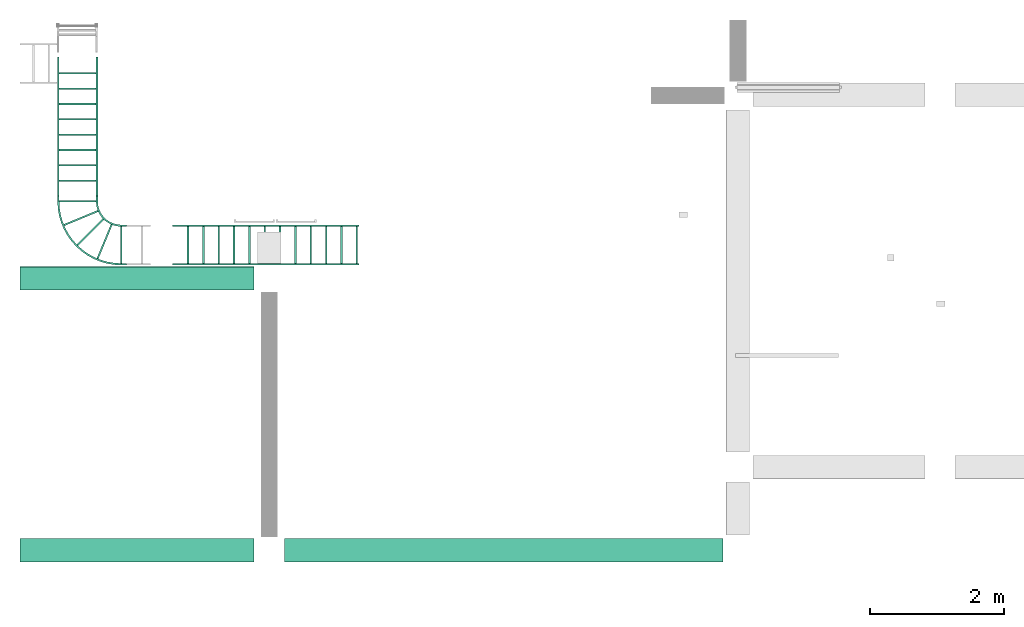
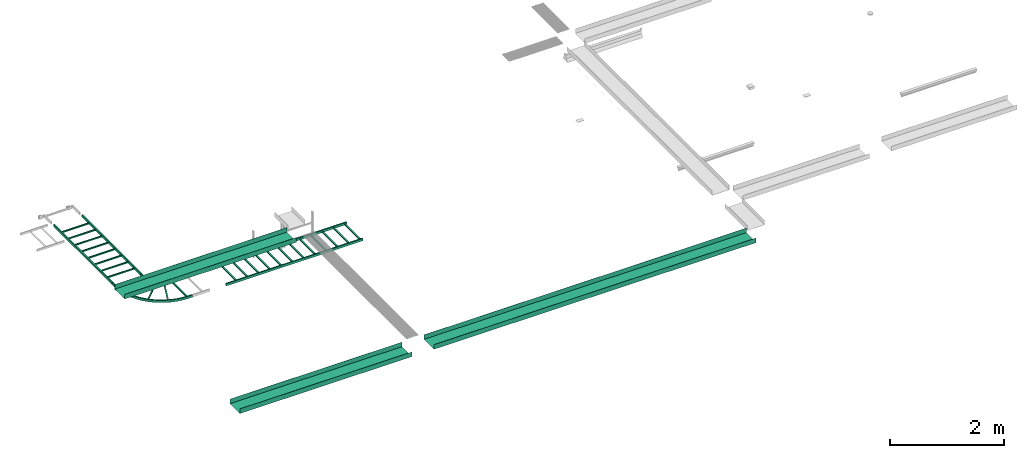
# One storey, part 8 of 14: 5 flow segments, 1 flow fitting.
"""IFC2X3 building model written with IfcOpenShell, lengths in millimetres."""

from ifc_helpers import new_model, entity, si_unit, converted_unit, derived_unit, direction, frame, origin_with_axes, place, context, subcontext, project, spatial, open_shell, faceted_brep, surface_model, source, transform, mapped, type_object, element, save


model = new_model("IFC2X3")

# Units and contexts
model_context = context("Model", 3, precision=0.01, world=frame((0.0, 4.29681676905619e-09, 0.0)), true_north=direction((4.01073788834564e-13, 1.0)))
plan_context = context("Plan", 3, precision=0.01, world=frame((0.0, 4.29681676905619e-09, 0.0)), true_north=direction((4.01073788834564e-13, 1.0)))
body_context = subcontext(model_context, "Body", "Model", "MODEL_VIEW")
ifc_project = project(units=[converted_unit("PLANEANGLEUNIT", "DEGREE", entity("IfcPositiveLengthMeasure", 0.0174532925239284), si_unit("PLANEANGLEUNIT", "RADIAN"), dimensions=[0, 0, 0, 0, 0, 0, 0]), si_unit("AREAUNIT", "SQUARE_METRE"), si_unit("LENGTHUNIT", "METRE", prefix="MILLI"), si_unit("MASSUNIT", "GRAM", prefix="KILO"), si_unit("POWERUNIT", "WATT"), si_unit("PRESSUREUNIT", "PASCAL", prefix="KILO"), si_unit("FORCEUNIT", "NEWTON", prefix="KILO"), si_unit("ELECTRICVOLTAGEUNIT", "VOLT"), si_unit("ELECTRICCURRENTUNIT", "AMPERE"), si_unit("THERMODYNAMICTEMPERATUREUNIT", "DEGREE_CELSIUS"), si_unit("TIMEUNIT", "SECOND"), si_unit("VOLUMEUNIT", "CUBIC_METRE"), derived_unit("LINEARVELOCITYUNIT", [(si_unit("LENGTHUNIT", "METRE"), 1), (si_unit("TIMEUNIT", "SECOND"), -1)]), derived_unit("VOLUMETRICFLOWRATEUNIT", [(si_unit("VOLUMEUNIT", "CUBIC_METRE"), 1), (si_unit("TIMEUNIT", "SECOND"), -1)]), derived_unit("THERMALTRANSMITTANCEUNIT", [(si_unit("POWERUNIT", "WATT"), 1), (si_unit("THERMODYNAMICTEMPERATUREUNIT", "KELVIN"), -1), (si_unit("AREAUNIT", "SQUARE_METRE"), -1)]), derived_unit("SOUNDPRESSUREUNIT", [(si_unit("PRESSUREUNIT", "PASCAL"), 1)])], contexts=[model_context, plan_context])

# Site, building, storey
site_placement = place(None, frame((0.0, -4.29681676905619e-09, 0.0), z_axis=(0.0, 0.0, 1.0), x_axis=(1.0, 0.0, 0.0)))
site = spatial("IfcSite", under=ifc_project, at=site_placement, Name="ENGM", CompositionType="ELEMENT")
building_placement = place(site_placement, frame((0.0, 4.29681676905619e-09, 0.0), z_axis=(0.0, 0.0, 1.0), x_axis=(1.0, 0.0, 0.0)))
building = spatial("IfcBuilding", under=site, at=building_placement, Name="TG", CompositionType="ELEMENT")
storey_placement = place(building_placement, frame((0.0, 0.0, 205200.0), z_axis=(0.0, 0.0, 1.0), x_axis=(1.0, 0.0, 0.0)))
storey = spatial("IfcBuildingStorey", under=building, at=storey_placement, Name="Nivå D + 1,2", CompositionType="ELEMENT", Elevation=205200.0)

# Flow fitting
cable_carrier_fitting_type = type_object("IfcCableCarrierFittingType", Name="Standard", PredefinedType="BEND")
shared_shape_1 = source(origin_with_axes(), body_context, "Body", "SurfaceModel", [
    surface_model("IfcShellBasedSurfaceModel", [(-298.31555, 518.0739, -25.0), (-308.0357, 494.60738, -25.0), (-308.0357, 494.60738, 0.4), (-298.31555, 518.0739, 0.4), (199.35894, 284.43763, 0.4), (199.35894, 284.43763, -25.0), (209.0791, 307.90417, -25.0), (209.0791, 307.90417, 0.4), (-494.60738, 308.0357, -25.0), (-518.0739, 298.31555, -25.0), (-518.0739, 298.31555, 0.4), (-494.60738, 308.0357, 0.4), (-307.90417, -209.0791, 0.4), (-307.90417, -209.0791, -25.0), (-284.43763, -199.35894, -25.0), (-284.43763, -199.35894, 0.4), (-274.60001, 662.70003, -25.0), (-274.60001, 637.29998, -25.0), (-274.60001, 637.29998, 0.4), (-274.60001, 662.70003, 0.4), (274.60001, 637.29998, 0.4), (274.60001, 637.29998, -25.0), (274.60001, 662.70003, -25.0), (274.60001, 662.70003, 0.4), (-637.29998, 274.60001, -25.0), (-662.70003, 274.60001, -25.0), (-662.70003, 274.60001, 0.4), (-637.29998, 274.60001, 0.4), (-662.70003, -274.60001, 0.4), (-662.70003, -274.60001, -25.0), (-637.29998, -274.60001, -25.0), (-637.29998, -274.60001, 0.4), (-375.57184, 393.53237, -25.0), (-393.53237, 375.57184, -25.0), (-393.53237, 375.57184, 0.4), (-375.57184, 393.53237, 0.4), (-5.18933, -12.77119, 0.4), (-5.18933, -12.77119, -25.0), (12.77119, 5.18933, -25.0), (12.77119, 5.18933, 0.4), (-729.99999, -274.60001, 25.0), (-729.99999, -274.60001, -25.0), (-729.99999, -300.0, -25.0), (-729.99999, -300.0, 25.0), (-729.99999, 274.60001, 25.0), (-729.99999, 300.0, -25.0), (-729.99999, 274.60001, -25.0), (-729.99999, 300.0, 25.0), (-650.0, -274.60001, 25.0), (-650.0, -274.60001, -25.0), (-237.81045, -205.92043, -25.0), (-248.83109, -183.03581, -25.0), (-144.56953, -154.388, -25.0), (-344.62399, -222.71453, -25.0), (-336.23489, -246.68916, -25.0), (-158.08314, -132.8812, -25.0), (-57.68469, -92.73991, -25.0), (-73.52133, -72.88139, -25.0), (21.75144, -21.75144, -25.0), (3.79093, -3.79093, -25.0), (-650.0, -300.0, -25.0), (-543.63375, -294.0266, -25.0), (-444.25715, -251.41836, -25.0), (-438.6051, -276.18153, -25.0), (-546.47765, -268.7863, -25.0), (274.60001, 650.0, -25.0), (274.60001, 729.99999, -25.0), (300.0, 650.0, -25.0), (251.41836, 444.25715, -25.0), (268.7863, 546.47765, -25.0), (276.18153, 438.6051, -25.0), (294.0266, 543.63375, -25.0), (300.0, 729.99999, -25.0), (246.68916, 336.23489, -25.0), (72.88139, 73.52133, -25.0), (132.8812, 158.08314, -25.0), (92.73991, 57.68469, -25.0), (154.388, 144.56953, -25.0), (222.71453, 344.62399, -25.0), (205.92043, 237.81045, -25.0), (183.03581, 248.83109, -25.0), (-650.0, -300.0, 25.0), (-543.63375, -294.0266, 25.0), (-438.6051, -276.18153, 25.0), (-546.47765, -268.7863, 25.0), (-444.25715, -251.41836, 25.0), (-336.23489, -246.68916, 25.0), (-344.62399, -222.71453, 25.0), (-237.81045, -205.92043, 25.0), (-248.83109, -183.03581, 25.0), (-144.56953, -154.388, 25.0), (-158.08314, -132.8812, 25.0), (-57.68469, -92.73991, 25.0), (3.79093, -3.79093, 25.0), (-73.52133, -72.88139, 25.0), (21.75144, -21.75144, 25.0), (92.73991, 57.68469, 25.0), (72.88139, 73.52133, 25.0), (132.8812, 158.08314, 25.0), (154.388, 144.56953, 25.0), (205.92043, 237.81045, 25.0), (183.03581, 248.83109, 25.0), (222.71453, 344.62399, 25.0), (246.68916, 336.23489, 25.0), (251.41836, 444.25715, 25.0), (274.60001, 650.0, 25.0), (268.7863, 546.47765, 25.0), (294.0266, 543.63375, 25.0), (276.18153, 438.6051, 25.0), (300.0, 650.0, 25.0), (274.60001, 729.99999, 25.0), (300.0, 729.99999, 25.0), (-650.0, 300.0, 25.0), (-650.0, 300.0, -25.0), (-530.29296, 321.10758, -25.0), (-475.0, 346.89111, -25.0), (-462.30002, 324.89405, -25.0), (-521.60563, 297.2394, -25.0), (-589.22316, 305.3173, -25.0), (-408.69755, 362.42693, -25.0), (-425.02435, 381.88443, -25.0), (-362.42693, 408.69755, -25.0), (-650.0, 274.60001, -25.0), (-584.81249, 280.30317, -25.0), (-300.0, 650.0, -25.0), (-300.0, 729.99999, -25.0), (-274.60001, 650.0, -25.0), (-305.3173, 589.22316, -25.0), (-280.30317, 584.81249, -25.0), (-274.60001, 729.99999, -25.0), (-297.2394, 521.60563, -25.0), (-381.88443, 425.02435, -25.0), (-346.89111, 475.0, -25.0), (-324.89405, 462.30002, -25.0), (-321.10758, 530.29296, -25.0), (-650.0, 274.60001, 25.0), (-589.22316, 305.3173, 25.0), (-584.81249, 280.30317, 25.0), (-521.60563, 297.2394, 25.0), (-530.29296, 321.10758, 25.0), (-475.0, 346.89111, 25.0), (-462.30002, 324.89405, 25.0), (-408.69755, 362.42693, 25.0), (-425.02435, 381.88443, 25.0), (-381.88443, 425.02435, 25.0), (-362.42693, 408.69755, 25.0), (-346.89111, 475.0, 25.0), (-324.89405, 462.30002, 25.0), (-297.2394, 521.60563, 25.0), (-321.10758, 530.29296, 25.0), (-305.3173, 589.22316, 25.0), (-300.0, 650.0, 25.0), (-280.30317, 584.81249, 25.0), (-300.0, 729.99999, 25.0), (-274.60001, 650.0, 25.0), (-274.60001, 729.99999, 25.0), (-598.23881, -271.69315, 25.0), (-203.45711, -157.95851, -25.0), (-394.44057, -237.06643, 25.0), (-495.3674, -260.10233, -25.0), (-115.80223, -102.88129, 25.0), (-115.80223, -102.88129, -25.0), (-598.23881, -271.69315, -25.0), (-495.3674, -260.10233, 25.0), (-34.8652, -38.33616, 25.0), (-34.8652, -38.33616, -25.0), (-296.72755, -202.87517, 25.0), (-394.44057, -237.06643, -25.0), (-296.72755, -202.87517, -25.0), (-203.45711, -157.95851, 25.0), (102.88129, 115.80223, 25.0), (102.88129, 115.80223, -25.0), (157.95851, 203.45711, -25.0), (157.95851, 203.45711, 25.0), (260.10233, 495.3674, 25.0), (270.88121, 583.78097, 25.0), (237.06643, 394.44057, 25.0), (237.06643, 394.44057, -25.0), (202.87517, 296.72755, 25.0), (202.87517, 296.72755, -25.0), (260.10233, 495.3674, -25.0), (271.69315, 598.23881, -25.0), (38.33616, 34.8652, -25.0), (38.33616, 34.8652, 25.0), (-619.6116, 302.65865, 25.0), (-313.21242, 559.75806, -25.0), (-502.64646, 333.99934, -25.0), (-559.75806, 313.21242, 25.0), (-619.6116, 302.65865, -25.0), (-559.75806, 313.21242, -25.0), (-403.45441, 403.45441, -25.0), (-450.01218, 364.38779, -25.0), (-313.21242, 559.75806, 25.0), (-502.64646, 333.99934, 25.0), (-450.01218, 364.38779, 25.0), (-403.45441, 403.45441, 25.0), (-364.38779, 450.01218, 25.0), (-364.38779, 450.01218, -25.0), (-333.99934, 502.64646, -25.0), (-333.99934, 502.64646, 25.0), (-302.65865, 619.6116, -25.0), (-303.55382, 609.37959, 25.0)], [open_shell([[[0, 1, 2]], [[2, 3, 0]], [[4, 5, 6]], [[6, 7, 4]], [[3, 7, 6]], [[6, 0, 3]], [[0, 6, 5]], [[5, 1, 0]], [[1, 5, 4]], [[4, 2, 1]], [[2, 4, 7]], [[7, 3, 2]], [[8, 9, 10]], [[10, 11, 8]], [[12, 13, 14]], [[14, 15, 12]], [[11, 15, 14]], [[14, 8, 11]], [[8, 14, 13]], [[13, 9, 8]], [[9, 13, 12]], [[12, 10, 9]], [[10, 12, 15]], [[15, 11, 10]], [[16, 17, 18]], [[18, 19, 16]], [[20, 21, 22]], [[22, 23, 20]], [[19, 23, 22]], [[22, 16, 19]], [[16, 22, 21]], [[21, 17, 16]], [[17, 21, 20]], [[20, 18, 17]], [[18, 20, 23]], [[23, 19, 18]], [[24, 25, 26]], [[26, 27, 24]], [[28, 29, 30]], [[30, 31, 28]], [[27, 31, 30]], [[30, 24, 27]], [[24, 30, 29]], [[29, 25, 24]], [[25, 29, 28]], [[28, 26, 25]], [[26, 28, 31]], [[31, 27, 26]], [[32, 33, 34]], [[34, 35, 32]], [[36, 37, 38]], [[38, 39, 36]], [[35, 39, 38]], [[38, 32, 35]], [[32, 38, 37]], [[37, 33, 32]], [[33, 37, 36]], [[36, 34, 33]], [[34, 36, 39]], [[39, 35, 34]], [[40, 41, 42]], [[42, 43, 40]], [[44, 45, 46]], [[45, 44, 47]], [[40, 48, 49]], [[49, 41, 40]], [[50, 51, 52]], [[53, 50, 54]], [[50, 53, 51]], [[51, 55, 52]], [[56, 57, 58]], [[52, 55, 56]], [[57, 59, 58]], [[56, 55, 57]], [[41, 49, 60]], [[60, 42, 41]], [[49, 61, 60]], [[62, 54, 63]], [[54, 62, 53]], [[64, 63, 61]], [[63, 64, 62]], [[64, 61, 49]], [[65, 66, 67]], [[68, 69, 70]], [[65, 71, 69]], [[71, 65, 67]], [[70, 69, 71]], [[67, 66, 72]], [[68, 70, 73]], [[74, 75, 76]], [[76, 58, 74]], [[75, 77, 76]], [[58, 59, 74]], [[78, 73, 79]], [[73, 78, 68]], [[77, 80, 79]], [[80, 77, 75]], [[79, 80, 78]], [[42, 60, 81]], [[81, 43, 42]], [[43, 81, 40]], [[48, 40, 81]], [[81, 82, 48]], [[82, 83, 84]], [[85, 84, 83]], [[83, 86, 85]], [[82, 84, 48]], [[87, 86, 88]], [[86, 87, 85]], [[89, 88, 90]], [[88, 89, 87]], [[91, 90, 92]], [[90, 91, 89]], [[93, 94, 95]], [[92, 94, 91]], [[95, 94, 92]], [[95, 96, 97]], [[98, 97, 96]], [[96, 99, 98]], [[99, 100, 101]], [[102, 100, 103]], [[100, 102, 101]], [[99, 101, 98]], [[102, 103, 104]], [[105, 106, 107]], [[104, 108, 106]], [[109, 105, 107]], [[110, 109, 111]], [[110, 105, 109]], [[107, 106, 108]], [[103, 108, 104]], [[97, 93, 95]], [[47, 112, 113]], [[113, 45, 47]], [[114, 115, 116]], [[117, 118, 114]], [[115, 119, 116]], [[119, 115, 120]], [[119, 120, 121]], [[117, 114, 116]], [[46, 45, 122]], [[122, 45, 113]], [[118, 123, 113]], [[123, 118, 117]], [[113, 123, 122]], [[124, 125, 126]], [[127, 124, 128]], [[124, 126, 128]], [[126, 125, 129]], [[127, 128, 130]], [[131, 132, 121]], [[121, 132, 133]], [[131, 121, 120]], [[133, 134, 130]], [[134, 133, 132]], [[130, 134, 127]], [[46, 122, 135]], [[135, 44, 46]], [[44, 135, 47]], [[47, 135, 112]], [[136, 112, 137]], [[137, 112, 135]], [[136, 137, 138]], [[136, 138, 139]], [[140, 139, 141]], [[142, 143, 140]], [[143, 142, 144]], [[142, 140, 141]], [[138, 141, 139]], [[144, 145, 146]], [[145, 144, 142]], [[146, 145, 147]], [[147, 148, 149]], [[149, 148, 150]], [[147, 149, 146]], [[151, 150, 152]], [[153, 151, 154]], [[154, 155, 153]], [[154, 151, 152]], [[150, 148, 152]], [[48, 156, 49]], [[157, 91, 55]], [[158, 62, 85]], [[62, 159, 85]], [[160, 94, 57]], [[91, 161, 55]], [[49, 156, 162]], [[163, 64, 84]], [[164, 93, 59]], [[94, 165, 57]], [[51, 166, 89]], [[53, 167, 87]], [[160, 161, 91]], [[167, 158, 87]], [[168, 166, 51]], [[159, 163, 85]], [[167, 62, 158]], [[84, 64, 162]], [[89, 169, 51]], [[168, 53, 87]], [[159, 64, 163]], [[157, 51, 169]], [[160, 57, 161]], [[156, 84, 162]], [[168, 87, 166]], [[164, 165, 94]], [[164, 59, 165]], [[170, 98, 75]], [[97, 171, 74]], [[98, 172, 75]], [[173, 101, 80]], [[174, 106, 69]], [[175, 69, 106]], [[176, 104, 68]], [[102, 177, 78]], [[178, 102, 78]], [[101, 179, 80]], [[104, 180, 68]], [[181, 175, 105]], [[169, 91, 157]], [[182, 93, 183]], [[173, 172, 98]], [[75, 171, 170]], [[172, 173, 80]], [[170, 171, 97]], [[176, 177, 102]], [[178, 78, 179]], [[181, 69, 175]], [[176, 68, 177]], [[180, 174, 69]], [[178, 179, 101]], [[181, 105, 65]], [[174, 180, 104]], [[182, 183, 74]], [[183, 97, 74]], [[182, 59, 93]], [[61, 82, 60]], [[63, 83, 61]], [[52, 56, 90]], [[56, 58, 92]], [[54, 86, 63]], [[86, 83, 63]], [[83, 82, 61]], [[82, 81, 60]], [[50, 88, 86]], [[88, 50, 90]], [[90, 50, 52]], [[56, 92, 90]], [[86, 54, 50]], [[58, 95, 92]], [[96, 76, 77]], [[79, 99, 77]], [[70, 71, 108]], [[103, 73, 70]], [[100, 79, 73]], [[107, 71, 67]], [[95, 76, 96]], [[96, 77, 99]], [[100, 99, 79]], [[73, 103, 100]], [[70, 108, 103]], [[107, 108, 71]], [[67, 109, 107]], [[76, 95, 58]], [[112, 184, 113]], [[149, 185, 134]], [[115, 186, 140]], [[187, 118, 136]], [[113, 184, 188]], [[114, 189, 139]], [[190, 144, 131]], [[120, 191, 143]], [[192, 185, 149]], [[188, 136, 118]], [[193, 140, 186]], [[189, 187, 139]], [[184, 136, 188]], [[189, 118, 187]], [[143, 191, 194]], [[195, 144, 190]], [[143, 195, 120]], [[196, 146, 132]], [[193, 114, 139]], [[192, 150, 127]], [[144, 197, 131]], [[146, 198, 132]], [[199, 149, 134]], [[194, 115, 140]], [[200, 201, 151]], [[186, 114, 193]], [[132, 197, 196]], [[198, 199, 134]], [[192, 127, 185]], [[199, 198, 146]], [[196, 197, 144]], [[200, 151, 124]], [[191, 115, 194]], [[201, 127, 150]], [[120, 195, 190]], [[200, 127, 201]], [[137, 122, 123]], [[141, 117, 116]], [[117, 138, 123]], [[119, 141, 116]], [[135, 122, 137]], [[123, 138, 137]], [[117, 141, 138]], [[142, 141, 119]], [[119, 145, 142]], [[145, 121, 133]], [[148, 130, 128]], [[133, 130, 147]], [[152, 128, 126]], [[145, 133, 147]], [[148, 147, 130]], [[128, 152, 148]], [[126, 154, 152]], [[121, 145, 119]], [[72, 66, 111]], [[110, 111, 66]], [[129, 125, 155]], [[153, 155, 125]], [[105, 110, 66]], [[66, 65, 105]], [[67, 72, 111]], [[111, 109, 67]], [[151, 153, 125]], [[125, 124, 151]], [[126, 129, 155]], [[155, 154, 126]]])]),
])
flow_fitting_placement = place(storey_placement, frame((322653.78146, 464146.99598, 4130.0), z_axis=(0.0, 0.0, 1.0), x_axis=(0.0, -1.0, 0.0)))
element("IfcFlowFitting", 1, at=flow_fitting_placement, inside=storey, type_object=cable_carrier_fitting_type, Name="Standard", context=body_context, shape_type="MappedRepresentation", body=[
    mapped(shared_shape_1, transform((0.0, 0.0, 0.0), scale=1.0)),
])

# Flow segments
cable_carrier_segment_type_1 = type_object("IfcCableCarrierSegmentType", Name="Kabelbane", PredefinedType="CABLETRAYSEGMENT")
shared_shape_2 = source(origin_with_axes(), body_context, "Body", "SurfaceModel", [
    surface_model("IfcShellBasedSurfaceModel", [(0.0, -175.0, 50.0), (0.0, -172.46, -47.46), (0.0, -175.0, -50.0), (0.0, 175.0, -50.0), (0.0, -172.46, 50.0), (0.0, 175.0, 50.0), (0.0, 172.46, -47.46), (0.0, 172.46, 50.0), (6534.98774, -175.0, -50.0), (6534.98774, -172.46, -47.46), (6534.98774, -175.0, 50.0), (6534.98774, 175.0, -50.0), (6534.98774, -172.46, 50.0), (6534.98774, 172.46, -47.46), (6534.98774, 175.0, 50.0), (6534.98774, 172.46, 50.0)], [open_shell([[[0, 1, 2]], [[3, 2, 1]], [[1, 0, 4]], [[5, 3, 6]], [[1, 6, 3]], [[6, 7, 5]], [[8, 9, 10]], [[9, 8, 11]], [[12, 10, 9]], [[13, 11, 14]], [[11, 13, 9]], [[14, 15, 13]], [[2, 8, 10]], [[10, 0, 2]], [[0, 10, 12]], [[12, 4, 0]], [[4, 12, 9]], [[9, 1, 4]], [[1, 9, 13]], [[13, 6, 1]], [[6, 13, 15]], [[15, 7, 6]], [[7, 15, 14]], [[14, 5, 7]], [[5, 14, 11]], [[11, 3, 5]], [[3, 11, 8]], [[8, 2, 3]]])]),
])
flow_segment_1_placement = place(storey_placement, frame((325735.0, 459597.5, 4900.0), z_axis=(0.0, 0.0, 1.0), x_axis=(1.0, 0.0, 0.0)))
element("IfcFlowSegment", 2, at=flow_segment_1_placement, inside=storey, type_object=cable_carrier_segment_type_1, Name="Kabelbane", context=body_context, shape_type="MappedRepresentation", body=[
    mapped(shared_shape_2, transform((0.0, 0.0, 0.0), scale=1.0)),
])
cable_carrier_segment_type_2 = type_object("IfcCableCarrierSegmentType", Name="Kabelbro", PredefinedType="CABLELADDERSEGMENT")
shared_shape_3 = source(origin_with_axes(), body_context, "Body", "SurfaceModel", [
    surface_model("IfcShellBasedSurfaceModel", [(241.30001, -274.60001, 0.4), (215.89999, -274.60001, 0.4), (215.89999, -274.60001, -25.0), (241.30001, -274.60001, -25.0), (215.89999, 274.60001, -25.0), (215.89999, 274.60001, 0.4), (241.30001, 274.60001, 0.4), (241.30001, 274.60001, -25.0), (469.89999, -274.60001, 0.4), (444.50001, -274.60001, 0.4), (444.50001, -274.60001, -25.0), (469.89999, -274.60001, -25.0), (444.50001, 274.60001, -25.0), (444.50001, 274.60001, 0.4), (469.89999, 274.60001, 0.4), (469.89999, 274.60001, -25.0), (698.50002, -274.60001, 0.4), (673.09998, -274.60001, 0.4), (673.09998, -274.60001, -25.0), (698.50002, -274.60001, -25.0), (673.09998, 274.60001, -25.0), (673.09998, 274.60001, 0.4), (698.50002, 274.60001, 0.4), (698.50002, 274.60001, -25.0), (927.10002, -274.60001, 0.4), (901.69998, -274.60001, 0.4), (901.69998, -274.60001, -25.0), (927.10002, -274.60001, -25.0), (901.69998, 274.60001, -25.0), (901.69998, 274.60001, 0.4), (927.10002, 274.60001, 0.4), (927.10002, 274.60001, -25.0), (1155.70002, -274.60001, 0.4), (1130.29998, -274.60001, 0.4), (1130.29998, -274.60001, -25.0), (1155.70002, -274.60001, -25.0), (1130.29998, 274.60001, -25.0), (1130.29998, 274.60001, 0.4), (1155.70002, 274.60001, 0.4), (1155.70002, 274.60001, -25.0), (1384.29995, -274.60001, 0.4), (1358.90005, -274.60001, 0.4), (1358.90005, -274.60001, -25.0), (1384.29995, -274.60001, -25.0), (1358.90005, 274.60001, -25.0), (1358.90005, 274.60001, 0.4), (1384.29995, 274.60001, 0.4), (1384.29995, 274.60001, -25.0), (1612.89995, -274.60001, 0.4), (1587.50005, -274.60001, 0.4), (1587.50005, -274.60001, -25.0), (1612.89995, -274.60001, -25.0), (1587.50005, 274.60001, -25.0), (1587.50005, 274.60001, 0.4), (1612.89995, 274.60001, 0.4), (1612.89995, 274.60001, -25.0), (1841.49995, -274.60001, 0.4), (1816.10005, -274.60001, 0.4), (1816.10005, -274.60001, -25.0), (1841.49995, -274.60001, -25.0), (1816.10005, 274.60001, -25.0), (1816.10005, 274.60001, 0.4), (1841.49995, 274.60001, 0.4), (1841.49995, 274.60001, -25.0), (2070.09995, -274.60001, 0.4), (2044.70005, -274.60001, 0.4), (2044.70005, -274.60001, -25.0), (2070.09995, -274.60001, -25.0), (2044.70005, 274.60001, -25.0), (2044.70005, 274.60001, 0.4), (2070.09995, 274.60001, 0.4), (2070.09995, 274.60001, -25.0), (2298.69995, -274.60001, 0.4), (2273.30005, -274.60001, 0.4), (2273.30005, -274.60001, -25.0), (2298.69995, -274.60001, -25.0), (2273.30005, 274.60001, -25.0), (2273.30005, 274.60001, 0.4), (2298.69995, 274.60001, 0.4), (2298.69995, 274.60001, -25.0), (2527.3001, -274.60001, 0.4), (2501.8999, -274.60001, 0.4), (2501.8999, -274.60001, -25.0), (2527.3001, -274.60001, -25.0), (2501.8999, 274.60001, -25.0), (2501.8999, 274.60001, 0.4), (2527.3001, 274.60001, 0.4), (2527.3001, 274.60001, -25.0), (2755.9001, -274.60001, 0.4), (2730.4999, -274.60001, 0.4), (2730.4999, -274.60001, -25.0), (2755.9001, -274.60001, -25.0), (2730.4999, 274.60001, -25.0), (2730.4999, 274.60001, 0.4), (2755.9001, 274.60001, 0.4), (2755.9001, 274.60001, -25.0), (0.0, -274.60001, 25.0), (0.0, -300.0, -25.0), (0.0, -300.0, 25.0), (0.0, -274.60001, -25.0), (0.0, 300.0, 25.0), (0.0, 274.60001, -25.0), (0.0, 274.60001, 25.0), (0.0, 300.0, -25.0), (2777.78132, -300.0, 25.0), (2777.78132, -300.0, -25.0), (2777.78132, -274.60001, 25.0), (2777.78132, -274.60001, -25.0), (2777.78132, 274.60001, 25.0), (2777.78132, 274.60001, -25.0), (2777.78132, 300.0, 25.0), (2777.78132, 300.0, -25.0)], [open_shell([[[0, 1, 2]], [[2, 3, 0]], [[4, 5, 6]], [[6, 7, 4]], [[3, 7, 6]], [[6, 0, 3]], [[0, 6, 5]], [[5, 1, 0]], [[1, 5, 4]], [[4, 2, 1]], [[2, 4, 7]], [[7, 3, 2]], [[8, 9, 10]], [[10, 11, 8]], [[12, 13, 14]], [[14, 15, 12]], [[11, 15, 14]], [[14, 8, 11]], [[8, 14, 13]], [[13, 9, 8]], [[9, 13, 12]], [[12, 10, 9]], [[10, 12, 15]], [[15, 11, 10]], [[16, 17, 18]], [[18, 19, 16]], [[20, 21, 22]], [[22, 23, 20]], [[19, 23, 22]], [[22, 16, 19]], [[16, 22, 21]], [[21, 17, 16]], [[17, 21, 20]], [[20, 18, 17]], [[18, 20, 23]], [[23, 19, 18]], [[24, 25, 26]], [[26, 27, 24]], [[28, 29, 30]], [[30, 31, 28]], [[27, 31, 30]], [[30, 24, 27]], [[24, 30, 29]], [[29, 25, 24]], [[25, 29, 28]], [[28, 26, 25]], [[26, 28, 31]], [[31, 27, 26]], [[32, 33, 34]], [[34, 35, 32]], [[36, 37, 38]], [[38, 39, 36]], [[35, 39, 38]], [[38, 32, 35]], [[32, 38, 37]], [[37, 33, 32]], [[33, 37, 36]], [[36, 34, 33]], [[34, 36, 39]], [[39, 35, 34]], [[40, 41, 42]], [[42, 43, 40]], [[44, 45, 46]], [[46, 47, 44]], [[43, 47, 46]], [[46, 40, 43]], [[40, 46, 45]], [[45, 41, 40]], [[41, 45, 44]], [[44, 42, 41]], [[42, 44, 47]], [[47, 43, 42]], [[48, 49, 50]], [[50, 51, 48]], [[52, 53, 54]], [[54, 55, 52]], [[51, 55, 54]], [[54, 48, 51]], [[48, 54, 53]], [[53, 49, 48]], [[49, 53, 52]], [[52, 50, 49]], [[50, 52, 55]], [[55, 51, 50]], [[56, 57, 58]], [[58, 59, 56]], [[60, 61, 62]], [[62, 63, 60]], [[59, 63, 62]], [[62, 56, 59]], [[56, 62, 61]], [[61, 57, 56]], [[57, 61, 60]], [[60, 58, 57]], [[58, 60, 63]], [[63, 59, 58]], [[64, 65, 66]], [[66, 67, 64]], [[68, 69, 70]], [[70, 71, 68]], [[67, 71, 70]], [[70, 64, 67]], [[64, 70, 69]], [[69, 65, 64]], [[65, 69, 68]], [[68, 66, 65]], [[66, 68, 71]], [[71, 67, 66]], [[72, 73, 74]], [[74, 75, 72]], [[76, 77, 78]], [[78, 79, 76]], [[75, 79, 78]], [[78, 72, 75]], [[72, 78, 77]], [[77, 73, 72]], [[73, 77, 76]], [[76, 74, 73]], [[74, 76, 79]], [[79, 75, 74]], [[80, 81, 82]], [[82, 83, 80]], [[84, 85, 86]], [[86, 87, 84]], [[83, 87, 86]], [[86, 80, 83]], [[80, 86, 85]], [[85, 81, 80]], [[81, 85, 84]], [[84, 82, 81]], [[82, 84, 87]], [[87, 83, 82]], [[88, 89, 90]], [[90, 91, 88]], [[92, 93, 94]], [[94, 95, 92]], [[91, 95, 94]], [[94, 88, 91]], [[88, 94, 93]], [[93, 89, 88]], [[89, 93, 92]], [[92, 90, 89]], [[90, 92, 95]], [[95, 91, 90]], [[96, 97, 98]], [[97, 96, 99]], [[100, 101, 102]], [[101, 100, 103]], [[104, 105, 106]], [[107, 106, 105]], [[108, 109, 110]], [[111, 110, 109]], [[97, 105, 104]], [[104, 98, 97]], [[98, 104, 106]], [[106, 96, 98]], [[96, 106, 107]], [[107, 99, 96]], [[99, 107, 105]], [[105, 97, 99]], [[100, 110, 111]], [[111, 103, 100]], [[103, 111, 109]], [[109, 101, 103]], [[101, 109, 108]], [[108, 102, 101]], [[102, 108, 110]], [[110, 100, 102]]])]),
])
flow_segment_2_placement = place(storey_placement, frame((324071.0, 464146.99598, 4130.0), z_axis=(0.0, 0.0, 1.0), x_axis=(1.0, 0.0, 0.0)))
element("IfcFlowSegment", 3, at=flow_segment_2_placement, inside=storey, type_object=cable_carrier_segment_type_2, Name="Kabelbro", context=body_context, shape_type="MappedRepresentation", body=[
    mapped(shared_shape_3, transform((0.0, 0.0, 0.0), scale=1.0)),
])
shared_shape_4 = source(origin_with_axes(), body_context, "Body", "SurfaceModel", [
    surface_model("IfcShellBasedSurfaceModel", [(241.30001, -274.60001, 0.4), (215.89999, -274.60001, 0.4), (215.89999, -274.60001, -25.0), (241.30001, -274.60001, -25.0), (215.89999, 274.60001, -25.0), (215.89999, 274.60001, 0.4), (241.30001, 274.60001, 0.4), (241.30001, 274.60001, -25.0), (469.89999, -274.60001, 0.4), (444.50001, -274.60001, 0.4), (444.50001, -274.60001, -25.0), (469.89999, -274.60001, -25.0), (444.50001, 274.60001, -25.0), (444.50001, 274.60001, 0.4), (469.89999, 274.60001, 0.4), (469.89999, 274.60001, -25.0), (698.50002, -274.60001, 0.4), (673.09998, -274.60001, 0.4), (673.09998, -274.60001, -25.0), (698.50002, -274.60001, -25.0), (673.09998, 274.60001, -25.0), (673.09998, 274.60001, 0.4), (698.50002, 274.60001, 0.4), (698.50002, 274.60001, -25.0), (927.10002, -274.60001, 0.4), (901.69998, -274.60001, 0.4), (901.69998, -274.60001, -25.0), (927.10002, -274.60001, -25.0), (901.69998, 274.60001, -25.0), (901.69998, 274.60001, 0.4), (927.10002, 274.60001, 0.4), (927.10002, 274.60001, -25.0), (1155.70002, -274.60001, 0.4), (1130.29998, -274.60001, 0.4), (1130.29998, -274.60001, -25.0), (1155.70002, -274.60001, -25.0), (1130.29998, 274.60001, -25.0), (1130.29998, 274.60001, 0.4), (1155.70002, 274.60001, 0.4), (1155.70002, 274.60001, -25.0), (1384.29995, -274.60001, 0.4), (1358.90005, -274.60001, 0.4), (1358.90005, -274.60001, -25.0), (1384.29995, -274.60001, -25.0), (1358.90005, 274.60001, -25.0), (1358.90005, 274.60001, 0.4), (1384.29995, 274.60001, 0.4), (1384.29995, 274.60001, -25.0), (1612.89995, -274.60001, 0.4), (1587.50005, -274.60001, 0.4), (1587.50005, -274.60001, -25.0), (1612.89995, -274.60001, -25.0), (1587.50005, 274.60001, -25.0), (1587.50005, 274.60001, 0.4), (1612.89995, 274.60001, 0.4), (1612.89995, 274.60001, -25.0), (1841.49995, -274.60001, 0.4), (1816.10005, -274.60001, 0.4), (1816.10005, -274.60001, -25.0), (1841.49995, -274.60001, -25.0), (1816.10005, 274.60001, -25.0), (1816.10005, 274.60001, 0.4), (1841.49995, 274.60001, 0.4), (1841.49995, 274.60001, -25.0), (0.0, -274.60001, -25.0), (0.0, -300.0, 25.0), (0.0, -274.60001, 25.0), (0.0, -300.0, -25.0), (0.0, 300.0, -25.0), (0.0, 274.60001, 25.0), (0.0, 300.0, 25.0), (0.0, 274.60001, -25.0), (2069.53022, -300.0, -25.0), (2069.53022, -274.60001, -25.0), (2069.53022, -300.0, 25.0), (2069.53022, -274.60001, 25.0), (2069.53022, 274.60001, -25.0), (2069.53022, 300.0, -25.0), (2069.53022, 274.60001, 25.0), (2069.53022, 300.0, 25.0)], [open_shell([[[0, 1, 2]], [[2, 3, 0]], [[4, 5, 6]], [[6, 7, 4]], [[3, 7, 6]], [[6, 0, 3]], [[0, 6, 5]], [[5, 1, 0]], [[1, 5, 4]], [[4, 2, 1]], [[2, 4, 7]], [[7, 3, 2]], [[8, 9, 10]], [[10, 11, 8]], [[12, 13, 14]], [[14, 15, 12]], [[11, 15, 14]], [[14, 8, 11]], [[8, 14, 13]], [[13, 9, 8]], [[9, 13, 12]], [[12, 10, 9]], [[10, 12, 15]], [[15, 11, 10]], [[16, 17, 18]], [[18, 19, 16]], [[20, 21, 22]], [[22, 23, 20]], [[19, 23, 22]], [[22, 16, 19]], [[16, 22, 21]], [[21, 17, 16]], [[17, 21, 20]], [[20, 18, 17]], [[18, 20, 23]], [[23, 19, 18]], [[24, 25, 26]], [[26, 27, 24]], [[28, 29, 30]], [[30, 31, 28]], [[27, 31, 30]], [[30, 24, 27]], [[24, 30, 29]], [[29, 25, 24]], [[25, 29, 28]], [[28, 26, 25]], [[26, 28, 31]], [[31, 27, 26]], [[32, 33, 34]], [[34, 35, 32]], [[36, 37, 38]], [[38, 39, 36]], [[35, 39, 38]], [[38, 32, 35]], [[32, 38, 37]], [[37, 33, 32]], [[33, 37, 36]], [[36, 34, 33]], [[34, 36, 39]], [[39, 35, 34]], [[40, 41, 42]], [[42, 43, 40]], [[44, 45, 46]], [[46, 47, 44]], [[43, 47, 46]], [[46, 40, 43]], [[40, 46, 45]], [[45, 41, 40]], [[41, 45, 44]], [[44, 42, 41]], [[42, 44, 47]], [[47, 43, 42]], [[48, 49, 50]], [[50, 51, 48]], [[52, 53, 54]], [[54, 55, 52]], [[51, 55, 54]], [[54, 48, 51]], [[48, 54, 53]], [[53, 49, 48]], [[49, 53, 52]], [[52, 50, 49]], [[50, 52, 55]], [[55, 51, 50]], [[56, 57, 58]], [[58, 59, 56]], [[60, 61, 62]], [[62, 63, 60]], [[59, 63, 62]], [[62, 56, 59]], [[56, 62, 61]], [[61, 57, 56]], [[57, 61, 60]], [[60, 58, 57]], [[58, 60, 63]], [[63, 59, 58]], [[64, 65, 66]], [[65, 64, 67]], [[68, 69, 70]], [[69, 68, 71]], [[72, 73, 74]], [[75, 74, 73]], [[76, 77, 78]], [[79, 78, 77]], [[67, 72, 74]], [[74, 65, 67]], [[65, 74, 75]], [[75, 66, 65]], [[66, 75, 73]], [[73, 64, 66]], [[64, 73, 72]], [[72, 67, 64]], [[70, 79, 77]], [[77, 68, 70]], [[68, 77, 76]], [[76, 71, 68]], [[71, 76, 78]], [[78, 69, 71]], [[69, 78, 79]], [[79, 70, 69]]])]),
])
flow_segment_3_placement = place(storey_placement, frame((322653.78146, 464876.99598, 4130.0), z_axis=(0.0, 0.0, 1.0), x_axis=(0.0, 1.0, 0.0)))
element("IfcFlowSegment", 4, at=flow_segment_3_placement, inside=storey, type_object=cable_carrier_segment_type_2, Name="Kabelbro", context=body_context, shape_type="MappedRepresentation", body=[
    mapped(shared_shape_4, transform((0.0, 0.0, 0.0), scale=1.0)),
])
for number, where, z_axis, x_axis in (
    (5, (320735.0, 463647.5, 4900.0), (0.0, 0.0, 1.0), (1.0, 0.0, 0.0)),
    (6, (320735.0, 459597.5, 4900.0), (0.0, 0.0, 1.0), (1.0, 0.0, 0.0)),
):
    element("IfcFlowSegment", number, at=place(storey_placement, frame(where, z_axis=z_axis, x_axis=x_axis)), inside=storey, type_object=cable_carrier_segment_type_1, Name="Kabelbane", context=body_context, shape_type="Brep", body=[
        faceted_brep([(4549.99989, -175.0, 50.0), (4549.99989, -172.46, -47.46), (4549.99989, -175.0, -50.0), (4549.99989, -172.46, 50.0), (4549.99989, 175.0, -50.0), (4549.99989, 172.46, -47.46), (4549.99989, 175.0, 50.0), (4549.99989, 172.46, 50.0), (1059.75000000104, -175.0, -50.0), (1059.75000000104, -175.0, -26.7087906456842), (1059.75000000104, -175.0, 50.0), (1059.75000000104, -174.4084032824, 50.0), (1059.75000000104, -172.46, 50.0), (1059.75000000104, -172.46, 27.3003873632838), (1059.75000000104, -172.46, -47.46), (1059.75000000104, -92.1239606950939, -47.46), (1059.75000000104, 172.46, -47.46), (1059.75000000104, 172.46, -24.7603873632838), (1059.75000000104, 172.46, 50.0), (1059.75000000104, 173.0515967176, 50.0), (1059.75000000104, 175.0, 50.0), (1059.75000000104, 175.0, 26.7087906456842), (1059.75000000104, 175.0, -50.0), (1059.75000000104, 93.4807672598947, -50.0)], [[[0, 1, 2]], [[1, 0, 3]], [[4, 2, 1]], [[1, 5, 4]], [[6, 4, 5]], [[5, 7, 6]], [[8, 9, 0, 2]], [[9, 10, 0]], [[10, 11, 3, 0]], [[11, 12, 3]], [[12, 13, 1, 3]], [[13, 14, 1]], [[14, 15, 5, 1]], [[15, 16, 5]], [[16, 17, 7, 5]], [[17, 18, 7]], [[18, 19, 6, 7]], [[19, 20, 6]], [[20, 21, 4, 6]], [[21, 22, 4]], [[22, 23, 2, 4]], [[23, 8, 2]], [[23, 22, 21, 20, 19, 18, 17, 16, 15, 14, 13, 12, 11, 10, 9, 8]]], orient=[[False], [False], [False], [False], [False], [False], [False], [False], [False], [False], [False], [False], [False], [False], [False], [False], [False], [False], [False], [False], [False], [False], [False]]),
    ])

save(model, "model.ifc")
